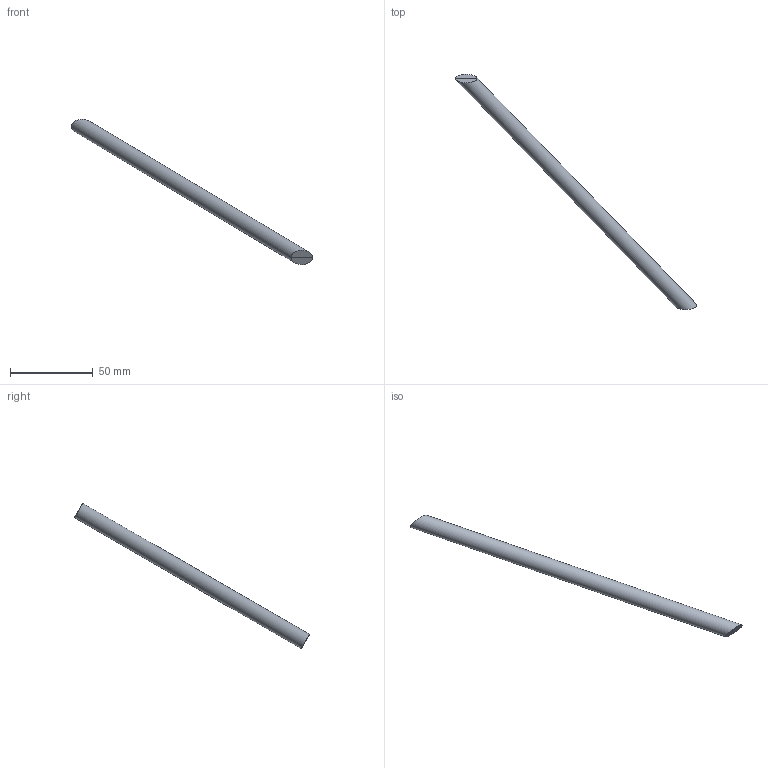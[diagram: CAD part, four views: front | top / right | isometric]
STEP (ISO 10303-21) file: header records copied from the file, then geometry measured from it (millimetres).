
FILE_DESCRIPTION(/* description */ (''),/* implementation_level */ '2;1');
FILE_NAME(/* name */ 'M:\Symbolen_NIEUW\STP\20-er truss\E20D\E20D-L058_111020008.stp',/* time_stamp */ '2017-11-16T13:33:54+01:00',/* author */ ('Kees'),/* organization */ (''),/* preprocessor_version */ 'ST-DEVELOPER v16.13',/* originating_system */ 'Autodesk Inventor 2018',/* authorisation */ '');
FILE_SCHEMA (('AUTOMOTIVE_DESIGN { 1 0 10303 214 3 1 1 }'));
Length unit declared in the file: millimetre
Products named in the file (1): 160008245
Bounding box: 145.63 x 141.82 x 87.65 mm (x, y, z)
Volume: 16199.2 mm3; surface area: 6684.7 mm2
Topology: 1 solids, 1 shells, 5 faces, 7 edges, 4 vertices
Faces by surface type: plane 4, cylinder 1
Full cylindrical faces by diameter (mm): 10 x1
Entity records: 149 total; most frequent: DIRECTION 22, CARTESIAN_POINT 16, ORIENTED_EDGE 12, AXIS2_PLACEMENT_3D 10, EDGE_LOOP 6, EDGE_CURVE 6, STYLED_ITEM 6, FACE_OUTER_BOUND 5
